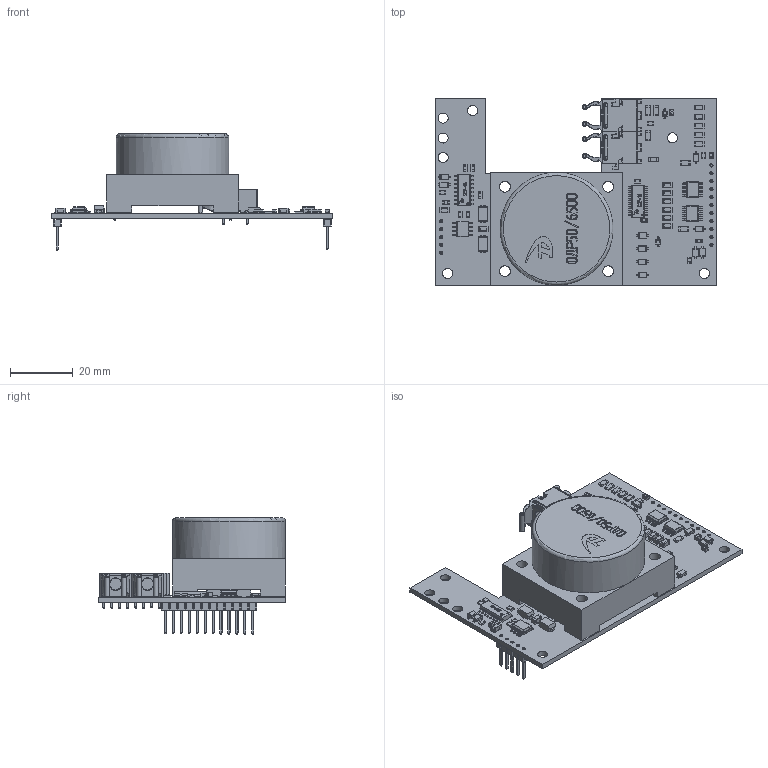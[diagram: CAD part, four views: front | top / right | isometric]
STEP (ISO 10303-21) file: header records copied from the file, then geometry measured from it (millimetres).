
FILE_DESCRIPTION(('STEP AP242'), '1');
FILE_NAME('ODR50_6500_v.5', '', ('UNSPECIFIED'), ('UNSPECIFIED'), 'C3D Converter', 'C3D Toolkit', '');
FILE_SCHEMA(('AP242_MANAGED_MODEL_BASED_3D_ENGINEERING_MIM_LF { 1 0 10303 442 1 1 4 }'));
Length unit declared in the file: millimetre
Products named in the file (1): ODR50_6500_v.4
Bounding box: 90 x 60 x 37.12 mm (x, y, z)
Volume: 20408.2 mm3; surface area: 23960.2 mm2
Topology: 168 solids, 174 shells, 7537 faces, 18345 edges, 10806 vertices
Faces by surface type: plane 3045, cylinder 2532, bspline 903, sphere 423, extrusion 353, torus 281
Full cylindrical faces by diameter (mm): 0.35 x4, 0.5 x2, 0.51 x12, 0.6 x2, 0.7 x6, 0.8 x6, 1 x42, 3.2 x7, 3.5 x8, 3.8 x2, 32 x1, 36 x1
Entity records: 337995 total; most frequent: CARTESIAN_POINT 113674, ORIENTED_EDGE 35264, DIRECTION 30543, EDGE_CURVE 17640, VERTEX_POINT 10716, AXIS2_PLACEMENT_3D 10276, VECTOR 9991, LINE 9638
